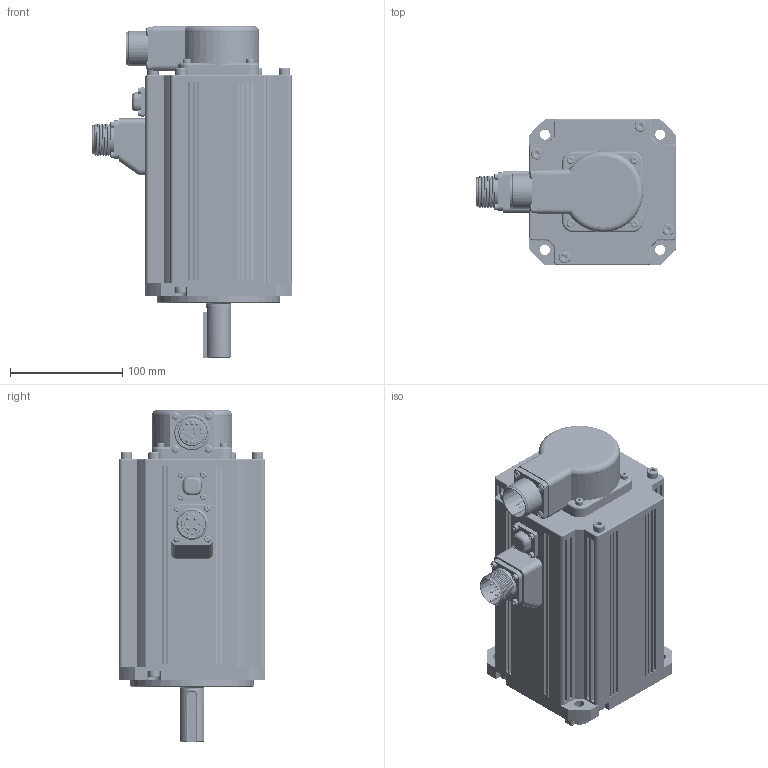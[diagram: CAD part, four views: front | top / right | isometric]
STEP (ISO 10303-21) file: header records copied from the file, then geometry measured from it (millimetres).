
FILE_DESCRIPTION((''),'2;1');
FILE_NAME('11101-01374_ASM','2024-11-12T14:39:56',('0109276'),(''),'CREO PARAMETRIC BY PTC INC, 2019080','CREO PARAMETRIC BY PTC INC, 2019080','');
FILE_SCHEMA(('CONFIG_CONTROL_DESIGN'));
Products named in the file (148): 80040343_AF0; 66670025_AF0; 66670025_AF1; 66670025_AF2; 66670025_AF3; 66670025_AF4; 66670025_AF5; 66670025_AF6; 66670025_AF7; 66670025_AF8; 66670025_AF9; 66670025_AF10; 66670025_AF11; 77840006_AF0; 77840006_AF1; 77840006_AF2; 77840006_AF3; 77840006_AF4; 77840006_AF5; 77840006_AF6; 77840006_AF7; 77840006_AF8; 77840006_AF9; 77840006_AF10; 77840006_AF11; 77840006_AF12; 77840006_AF13; 77840006_AF14; 77840006_AF15; 77840006_AF16; 77840006_AF17; 77840006_AF18; 77840006_AF19; 77840006_AF20; 77840006_AF21; 77840006_AF22; 77840006_AF23; PCB_PM2301_CV1_AF0; QBX-30C-2_AF0; QBX-30C-2_AF1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
Assembly tree (150 placements, depth 4):
  11101-01374_ASM
    12112-01165_AF0_ASM
      80040343_AF0
      66670025_AF0
      66670025_AF1
      66670025_AF2
      66670025_AF3
      66670025_AF4
      66670025_AF5
      66670025_AF6
      66670025_AF7
      66670025_AF8
      66670025_AF9
      66670025_AF10
      66670025_AF11
      77840006_AF0
      77840006_AF1
      77840006_AF2
      77840006_AF3
      77840006_AF4
      77840006_AF5
      77840006_AF6
      77840006_AF7
      77840006_AF8
      77840006_AF9
      77840006_AF10
      77840006_AF11
      77840006_AF12
      77840006_AF13
      77840006_AF14
      77840006_AF15
      77840006_AF16
      77840006_AF17
      77840006_AF18
      77840006_AF19
      77840006_AF20
      77840006_AF21
      77840006_AF22
      77840006_AF23
      PCB_PM2301_CV1_AF0
      QBX-30C-2_AF0
      QBX-30C-2_AF1
      QBX-30C-2_AF2
      QBX-30C-2_AF3
      QBX-30C-2_AF4
      QBX-30C-2_AF5
      QBX-30C-2_AF6
      QBX-30C-2_AF7
      QBX-30C-2_AF8
      QBX-30C-2_AF9
      QBX-30C-2_AF10
      QBX-30C-2_AF11
      CMS05A18-A6-130UL_0001_ASM
        50051-00115-UL
        50058-00155-UL
        18-A6-18FLANGE-CUSTOM-3D-UL
        M3X35-_AF000
        M3X35-_AF100
        M3X35-_AF200
        M3X35-_AF300
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Bounding box: 177.2 x 130 x 295.2 mm (x, y, z)
Volume: 730907.5 mm3; surface area: 402772.2 mm2
Topology: 38 solids, 55 shells, 6146 faces, 16777 edges, 10924 vertices
Faces by surface type: cylinder 2267, plane 2205, extrusion 812, bspline 462, torus 191, cone 165, sphere 44
Entity records: 316029 total; most frequent: CARTESIAN_POINT 174497, ORIENTED_EDGE 31602, DIRECTION 23904, EDGE_CURVE 15829, VERTEX_POINT 10363, VECTOR 9502, LINE 8690, AXIS2_PLACEMENT_3D 7201
